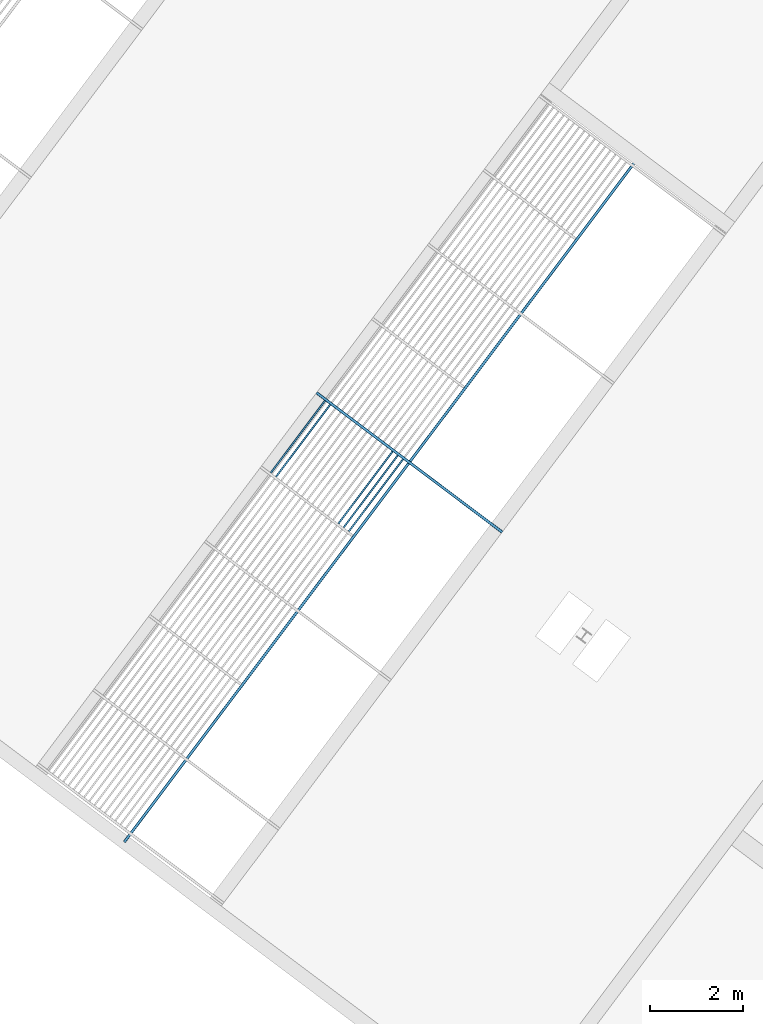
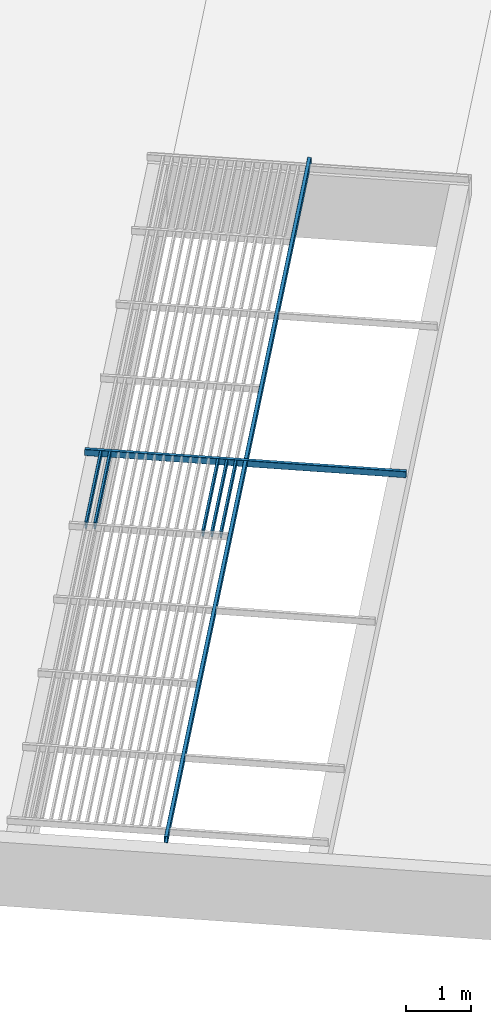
# One storey, part 26 of 95: 7 beams.
"""IFC2X3 building model written with IfcOpenShell, lengths in metres."""

import ifcopenshell
import ifcopenshell.guid

model = None  # the IFC model being written
_history = None  # IfcOwnerHistory: only IFC2X3 demands one
_inside = {}  # id of a spatial element -> (the spatial element, [elements in it])
_under = {}  # id of a project, library or spatial element -> (it, [spatial elements below it])
_declared = {}  # id of a project -> (the project, [libraries it declares])
_typed = {}  # id of a type object -> (the type object, [elements of that type])
_made_of = {}  # id of a material, layer set ... -> (it, [elements and type objects made of it])


def new_model(schema):
    """Start an empty IFC model of exactly this schema.

    Asked for "IFC4X3", IfcOpenShell would pick the latest addendum, in which some entities
    have other attributes; the version numbers below select the first issue.
    IFC2X3 requires an IfcOwnerHistory on every rooted entity: one is made here for all.
    """
    global model, _history
    if schema == "IFC4X3":
        model = ifcopenshell.file(schema_version=(4, 3, 0, 0))
    else:
        model = ifcopenshell.file(schema=schema)
    _inside.clear()
    _under.clear()
    _declared.clear()
    _typed.clear()
    _made_of.clear()
    _history = None
    if model.schema == "IFC2X3":
        org = make("IfcOrganization", Name="unknown")
        user = make(
            "IfcPersonAndOrganization",
            ThePerson=make("IfcPerson", FamilyName="unknown"),
            TheOrganization=org,
        )
        app = make(
            "IfcApplication",
            ApplicationDeveloper=org,
            Version="unknown",
            ApplicationFullName="unknown",
            ApplicationIdentifier="unknown",
        )
        _history = make(
            "IfcOwnerHistory",
            OwningUser=user,
            OwningApplication=app,
            ChangeAction="ADDED",
            CreationDate=0,
        )
    return model


def make(cls, **values):
    """One entity of the class cls with the attributes given. An attribute that is None is left unset."""
    return model.create_entity(
        cls, **{name: value for name, value in values.items() if value is not None}
    )


def entity(cls, *values):
    """Any entity or typed value of the class cls, its attributes in the order of the schema. None: left unset."""
    e = model.create_entity(cls)
    for i, value in enumerate(values):
        if value is not None:
            e[i] = value
    return e


def rooted(cls, **values):
    """An entity with a GlobalId (a new one), such as an element, a storey or a relation."""
    return make(cls, GlobalId=ifcopenshell.guid.new(), OwnerHistory=_history, **values)


def si_unit(unit_type, name, prefix=None):
    """IfcSIUnit, for example si_unit("LENGTHUNIT", "METRE", prefix="MILLI")."""
    return make("IfcSIUnit", UnitType=unit_type, Prefix=prefix, Name=name)


def converted_unit(unit_type, name, factor, base, dimensions=None, offset=None):
    """IfcConversionBasedUnit, such as the inch: factor (a typed value) times the base unit."""
    return make(
        "IfcConversionBasedUnit"
        if offset is None
        else "IfcConversionBasedUnitWithOffset",
        ConversionOffset=offset,
        Dimensions=None
        if dimensions is None
        else entity("IfcDimensionalExponents", *dimensions),
        UnitType=unit_type,
        Name=name,
        ConversionFactor=make(
            "IfcMeasureWithUnit", ValueComponent=factor, UnitComponent=base
        ),
    )


def derived_unit(unit_type, elements):
    """IfcDerivedUnit: a product of units, each with its exponent."""
    return make(
        "IfcDerivedUnit",
        Elements=[
            make("IfcDerivedUnitElement", Unit=unit, Exponent=power)
            for unit, power in elements
        ],
        UnitType=unit_type,
    )


def assignment(units):
    """IfcUnitAssignment: the units of a project."""
    return None if units is None else make("IfcUnitAssignment", Units=units)


def point(xyz):
    """IfcCartesianPoint."""
    return None if xyz is None else make("IfcCartesianPoint", Coordinates=xyz)


def direction(xyz):
    """IfcDirection."""
    return None if xyz is None else make("IfcDirection", DirectionRatios=xyz)


def frame(location, z_axis=None, x_axis=None):
    """IfcAxis2Placement3D, a coordinate frame: its origin and axes. An axis left out is left unset."""
    return make(
        "IfcAxis2Placement3D",
        Location=point(location),
        Axis=direction(z_axis),
        RefDirection=direction(x_axis),
    )


def frame_2d(location, x_axis=None):
    """IfcAxis2Placement2D, a coordinate frame in the plane: its origin and x axis."""
    return make(
        "IfcAxis2Placement2D", Location=point(location), RefDirection=direction(x_axis)
    )


def origin():
    """The frame at (0, 0, 0) with its axes left unset."""
    return frame((0.0, 0.0, 0.0))


def place(relative_to, where):
    """IfcLocalPlacement: puts the frame where relative to a parent placement (None: the world)."""
    return make(
        "IfcLocalPlacement", PlacementRelTo=relative_to, RelativePlacement=where
    )


def context(
    kind, dimensions, precision=None, world=None, true_north=None, identifier=None
):
    """IfcGeometricRepresentationContext, for example the 3D "Model" context."""
    return make(
        "IfcGeometricRepresentationContext",
        ContextIdentifier=identifier,
        ContextType=kind,
        CoordinateSpaceDimension=dimensions,
        Precision=precision,
        WorldCoordinateSystem=world,
        TrueNorth=true_north,
    )


def subcontext(parent, identifier, kind, view, scale=None):
    """IfcGeometricRepresentationSubContext, for example "Body" below "Model"."""
    return make(
        "IfcGeometricRepresentationSubContext",
        ContextIdentifier=identifier,
        ContextType=kind,
        ParentContext=parent,
        TargetScale=scale,
        TargetView=view,
    )


def project(units=None, contexts=None):
    """IfcProject with its units and contexts."""
    return rooted(
        "IfcProject",
        Name="project",
        RepresentationContexts=contexts,
        UnitsInContext=assignment(units),
    )


def spatial(cls, under=None, at=None, **own):
    """A site, building, storey or space (cls), placed at a placement, below another one or the project."""
    s = rooted(cls, ObjectPlacement=at, **own)
    if under is not None:
        _under.setdefault(under.id(), (under, []))[1].append(s)
    return s


def polyline(points):
    """IfcPolyline through the points."""
    return make("IfcPolyline", Points=[point(p) for p in points])


def circle_curve(where, radius):
    """IfcCircle in the frame where."""
    return make("IfcCircle", Position=where, Radius=radius)


def parameter(value):
    """IfcParameterValue: where a trimmed curve begins or ends, as a parameter of its basis curve."""
    return model.create_entity("IfcParameterValue", value)


def trimmed(basis, trim1, trim2, sense, master):
    """IfcTrimmedCurve: the piece of a basis curve between two trims."""
    return make(
        "IfcTrimmedCurve",
        BasisCurve=basis,
        Trim1=trim1,
        Trim2=trim2,
        SenseAgreement=sense,
        MasterRepresentation=master,
    )


def segment(curve, same_sense, transition):
    """IfcCompositeCurveSegment."""
    return make(
        "IfcCompositeCurveSegment",
        Transition=transition,
        SameSense=same_sense,
        ParentCurve=curve,
    )


def composite_curve(segments, self_intersect=None):
    """IfcCompositeCurve: segments joined end to end."""
    return make("IfcCompositeCurve", Segments=segments, SelfIntersect=self_intersect)


def outline(outer, holes=None, kind="AREA"):
    """IfcArbitraryClosedProfileDef: a profile drawn as a closed curve; with holes, ...WithVoids."""
    if holes is None:
        return make("IfcArbitraryClosedProfileDef", ProfileType=kind, OuterCurve=outer)
    return make(
        "IfcArbitraryProfileDefWithVoids",
        ProfileType=kind,
        OuterCurve=outer,
        InnerCurves=holes,
    )


def extrude(swept, where, along, depth):
    """IfcExtrudedAreaSolid: the profile swept, set in the frame where, extruded along a direction by depth."""
    return make(
        "IfcExtrudedAreaSolid",
        SweptArea=swept,
        Position=where,
        ExtrudedDirection=direction(along),
        Depth=depth,
    )


def shape(context_of_items, identifier, shape_type, items):
    """IfcShapeRepresentation: the items that make up one representation, for example the "Body"."""
    return make(
        "IfcShapeRepresentation",
        ContextOfItems=context_of_items,
        RepresentationIdentifier=identifier,
        RepresentationType=shape_type,
        Items=items,
    )


def material(Name=None, Category=None):
    """IfcMaterial."""
    return make("IfcMaterial", Name=Name, Category=Category)


def made_of(thing, what):
    """Note that an element or type object is made of a material, layer set ...; save() writes the relation."""
    if what is not None:
        _made_of.setdefault(what.id(), (what, []))[1].append(thing)
    return thing


def type_object(cls, material=None, **own):
    """A type object (cls), such as IfcWallType, which elements share."""
    return made_of(rooted(cls, **own), material)


def element(
    cls,
    number,
    at=None,
    inside=None,
    cuts=None,
    type_object=None,
    material=None,
    context=None,
    identifier="Body",
    shape_type=None,
    held_by="IfcProductDefinitionShape",
    body=None,
    shapes=None,
    **own,
):
    """One element of the class cls, such as IfcWall. Its Tag is "e" and its number.

    at: its placement. inside: the storey or other place that contains it. cuts: it is an
    opening in that element (IfcRelVoidsElement). A single representation is given by context,
    identifier, shape_type and body (its items); several are given by shapes. held_by: the class
    of the entity that holds the representations. save() writes the other relations.
    """
    e = rooted(cls, Tag="e%d" % number, ObjectPlacement=at, **own)
    if body is not None:
        shapes = [shape(context, identifier, shape_type, body)]
    if shapes is not None:
        e.Representation = make(held_by, Representations=shapes)
    if inside is not None:
        _inside.setdefault(inside.id(), (inside, []))[1].append(e)
    if cuts is not None:
        rooted(
            "IfcRelVoidsElement", RelatingBuildingElement=cuts, RelatedOpeningElement=e
        )
    if type_object is not None:
        _typed.setdefault(type_object.id(), (type_object, []))[1].append(e)
    return made_of(e, material)


def aggregate(whole, parts):
    """IfcRelAggregates: a whole, such as a stair, and the parts it consists of."""
    return rooted("IfcRelAggregates", RelatingObject=whole, RelatedObjects=parts)


def save(model, path):
    """Write the relations noted so far, then the file.

    IfcRelAggregates (storeys below a building ...), IfcRelContainedInSpatialStructure (elements
    in a storey), IfcRelDefinesByType, IfcRelAssociatesMaterial and IfcRelDeclares: one each for
    every whole, place, type object, material and project.
    """
    for whole, parts in _under.values():
        aggregate(whole, parts)
    for where, things in _inside.values():
        rooted(
            "IfcRelContainedInSpatialStructure",
            RelatedElements=things,
            RelatingStructure=where,
        )
    for kind, things in _typed.values():
        rooted("IfcRelDefinesByType", RelatedObjects=things, RelatingType=kind)
    for what, things in _made_of.values():
        rooted("IfcRelAssociatesMaterial", RelatedObjects=things, RelatingMaterial=what)
    for by, libraries in _declared.values():
        rooted("IfcRelDeclares", RelatingContext=by, RelatedDefinitions=libraries)
    model.write(path)


model = new_model("IFC2X3")

# Units and contexts
model_context = context("Model", 3, precision=1e-05, world=origin(), true_north=direction((6.123031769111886e-17, 1.0)))
body_context = subcontext(model_context, "Body", "Model", "MODEL_VIEW")
ifc_project = project(units=[si_unit("LENGTHUNIT", "METRE"), si_unit("AREAUNIT", "SQUARE_METRE"), si_unit("VOLUMEUNIT", "CUBIC_METRE"), converted_unit("PLANEANGLEUNIT", "DEGREE", entity("IfcRatioMeasure", 0.017453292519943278), si_unit("PLANEANGLEUNIT", "RADIAN"), dimensions=[0, 0, 0, 0, 0, 0, 0]), si_unit("MASSUNIT", "GRAM", prefix="KILO"), derived_unit("MASSDENSITYUNIT", [(si_unit("MASSUNIT", "GRAM", prefix="KILO"), 1), (si_unit("LENGTHUNIT", "METRE"), -3)]), derived_unit("IONCONCENTRATIONUNIT", [(si_unit("MASSUNIT", "GRAM", prefix="KILO"), 1), (si_unit("LENGTHUNIT", "METRE"), -3)]), derived_unit("MOMENTOFINERTIAUNIT", [(si_unit("LENGTHUNIT", "METRE"), 4)]), si_unit("TIMEUNIT", "SECOND"), si_unit("FREQUENCYUNIT", "HERTZ"), si_unit("THERMODYNAMICTEMPERATUREUNIT", "DEGREE_CELSIUS"), derived_unit("THERMALTRANSMITTANCEUNIT", [(si_unit("MASSUNIT", "GRAM", prefix="KILO"), 1), (si_unit("THERMODYNAMICTEMPERATUREUNIT", "KELVIN"), -1), (si_unit("TIMEUNIT", "SECOND"), -3)]), derived_unit("THERMALCONDUCTANCEUNIT", [(si_unit("MASSUNIT", "GRAM", prefix="KILO"), 1), (si_unit("THERMODYNAMICTEMPERATUREUNIT", "KELVIN"), -1), (si_unit("TIMEUNIT", "SECOND"), -3), (si_unit("LENGTHUNIT", "METRE"), 1)]), derived_unit("VOLUMETRICFLOWRATEUNIT", [(si_unit("LENGTHUNIT", "METRE"), 3), (si_unit("TIMEUNIT", "SECOND"), -1)]), derived_unit("MASSFLOWRATEUNIT", [(si_unit("MASSUNIT", "GRAM", prefix="KILO"), 1), (si_unit("TIMEUNIT", "SECOND"), -1)]), derived_unit("ROTATIONALFREQUENCYUNIT", [(si_unit("TIMEUNIT", "SECOND"), -1)]), si_unit("ELECTRICCURRENTUNIT", "AMPERE"), si_unit("ELECTRICVOLTAGEUNIT", "VOLT"), si_unit("POWERUNIT", "WATT"), si_unit("FORCEUNIT", "NEWTON", prefix="KILO"), si_unit("ILLUMINANCEUNIT", "LUX"), si_unit("LUMINOUSFLUXUNIT", "LUMEN"), si_unit("LUMINOUSINTENSITYUNIT", "CANDELA"), derived_unit("USERDEFINED", [(si_unit("MASSUNIT", "GRAM", prefix="KILO"), -1), (si_unit("LENGTHUNIT", "METRE"), -2), (si_unit("TIMEUNIT", "SECOND"), 3), (si_unit("LUMINOUSFLUXUNIT", "LUMEN"), 1)]), derived_unit("USERDEFINED", [(si_unit("MASSUNIT", "GRAM", prefix="KILO"), 1), (si_unit("TIMEUNIT", "SECOND"), -3), (si_unit("LENGTHUNIT", "METRE"), 3), (si_unit("ELECTRICCURRENTUNIT", "AMPERE"), -2)]), derived_unit("SOUNDPOWERUNIT", [(si_unit("MASSUNIT", "GRAM", prefix="KILO"), 1), (si_unit("TIMEUNIT", "SECOND"), -3), (si_unit("LENGTHUNIT", "METRE"), 2)]), derived_unit("SOUNDPRESSUREUNIT", [(si_unit("MASSUNIT", "GRAM", prefix="KILO"), 1), (si_unit("LENGTHUNIT", "METRE"), -1), (si_unit("TIMEUNIT", "SECOND"), -2)]), derived_unit("LINEARVELOCITYUNIT", [(si_unit("LENGTHUNIT", "METRE"), 1), (si_unit("TIMEUNIT", "SECOND"), -1)]), si_unit("PRESSUREUNIT", "PASCAL"), derived_unit("USERDEFINED", [(si_unit("MASSUNIT", "GRAM", prefix="KILO"), 1), (si_unit("LENGTHUNIT", "METRE"), -2), (si_unit("TIMEUNIT", "SECOND"), -2)]), derived_unit("LINEARFORCEUNIT", [(si_unit("MASSUNIT", "GRAM", prefix="KILO"), 1), (si_unit("TIMEUNIT", "SECOND"), -2)]), derived_unit("PLANARFORCEUNIT", [(si_unit("MASSUNIT", "GRAM", prefix="KILO"), 1), (si_unit("LENGTHUNIT", "METRE"), -1), (si_unit("TIMEUNIT", "SECOND"), -2)]), derived_unit("SPECIFICHEATCAPACITYUNIT", [(si_unit("THERMODYNAMICTEMPERATUREUNIT", "KELVIN"), -1), (si_unit("LENGTHUNIT", "METRE"), 2), (si_unit("TIMEUNIT", "SECOND"), -2)]), derived_unit("HEATINGVALUEUNIT", [(si_unit("LENGTHUNIT", "METRE"), 2), (si_unit("TIMEUNIT", "SECOND"), -2)]), derived_unit("VAPORPERMEABILITYUNIT", [(si_unit("LENGTHUNIT", "METRE"), -1), (si_unit("TIMEUNIT", "SECOND"), 1)]), derived_unit("DYNAMICVISCOSITYUNIT", [(si_unit("MASSUNIT", "GRAM", prefix="KILO"), 1), (si_unit("TIMEUNIT", "SECOND"), -1), (si_unit("LENGTHUNIT", "METRE"), -1)]), derived_unit("THERMALEXPANSIONCOEFFICIENTUNIT", [(si_unit("THERMODYNAMICTEMPERATUREUNIT", "KELVIN"), -1)]), derived_unit("MODULUSOFELASTICITYUNIT", [(si_unit("MASSUNIT", "GRAM", prefix="KILO"), 1), (si_unit("LENGTHUNIT", "METRE"), -1), (si_unit("TIMEUNIT", "SECOND"), -2)]), derived_unit("ISOTHERMALMOISTURECAPACITYUNIT", [(si_unit("LENGTHUNIT", "METRE"), 3), (si_unit("MASSUNIT", "GRAM", prefix="KILO"), -1)]), derived_unit("MOISTUREDIFFUSIVITYUNIT", [(si_unit("TIMEUNIT", "SECOND"), -1), (si_unit("LENGTHUNIT", "METRE"), 2)])], contexts=[model_context])

# Site, building, storey
site_placement = place(None, origin())
site = spatial("IfcSite", under=ifc_project, at=site_placement, Name="Default", CompositionType="ELEMENT")
building_placement = place(site_placement, frame((0.0, 0.0, 235.0), z_axis=(0.0, 0.0, 1.0), x_axis=(-0.7996477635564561, 0.6004693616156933, 0.0)))
building = spatial("IfcBuilding", under=site, at=building_placement, CompositionType="ELEMENT")
storey_placement = place(building_placement, frame((0.0, 0.0, 3.400000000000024)))
storey = spatial("IfcBuildingStorey", under=building, at=storey_placement, Name="PC- Coberta STR", CompositionType="ELEMENT", Elevation=3.400000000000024)

# Beams
ifc_material = material(Name="_Acer- STR")
beam_type_1 = type_object("IfcBeamType", Name="STR- V- Acer- RHS- Rectangular- T1:120x60RHS", PredefinedType="NOTDEFINED")
beam_1_placement = place(storey_placement, frame((26.113552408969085, -36.61519175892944, 0.4984047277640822), z_axis=(0.0, 0.0, 1.0), x_axis=(0.0, -1.0, 0.0)))
element("IfcBeam", 1, at=beam_1_placement, inside=storey, type_object=beam_type_1, material=ifc_material, Name="STR- V- Acer- RHS- Rectangular- T1:120x60RHS", ObjectType="STR- V- Acer- RHS- Rectangular- T1:120x60RHS", context=body_context, shape_type="SweptSolid", body=[
    extrude(outline(composite_curve([segment(trimmed(circle_curve(frame_2d((0.05200000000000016, -0.021999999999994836), x_axis=(1.0, 0.0)), 0.008), [parameter(270.00000000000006)], [parameter(359.99999999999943)], True, "PARAMETER"), True, "CONTINUOUS"), segment(polyline([(0.05999999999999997, -0.02199999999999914), (0.05999999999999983, 0.021999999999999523)]), True, "CONTINUOUS"), segment(trimmed(circle_curve(frame_2d((0.05200000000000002, 0.02200000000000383), x_axis=(0.0, 1.0)), 0.008), [parameter(269.9999999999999)], [parameter(0.0)], True, "PARAMETER"), True, "CONTINUOUS"), segment(polyline([(0.05199999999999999, 0.030000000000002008), (-0.052000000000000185, 0.030000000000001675)]), True, "CONTINUOUS"), segment(trimmed(circle_curve(frame_2d((-0.05200000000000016, 0.022000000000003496), x_axis=(-1.0, 0.0)), 0.008), [parameter(269.9999999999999)], [parameter(0.0)], True, "PARAMETER"), True, "CONTINUOUS"), segment(polyline([(-0.05999999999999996, 0.021999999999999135), (-0.059999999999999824, -0.021999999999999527)]), True, "CONTINUOUS"), segment(trimmed(circle_curve(frame_2d((-0.05200000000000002, -0.02199999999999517), x_axis=(0.0, -1.0)), 0.008), [parameter(269.9999999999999)], [parameter(0.0)], True, "PARAMETER"), True, "CONTINUOUS"), segment(polyline([(-0.05199999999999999, -0.02999999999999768), (0.052000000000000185, -0.029999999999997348)]), True, "CONTINUOUS")], self_intersect=False), holes=[composite_curve([segment(polyline([(0.056000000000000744, 0.02199999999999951), (0.05600000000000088, -0.021999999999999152)]), True, "CONTINUOUS"), segment(trimmed(circle_curve(frame_2d((0.0520000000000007, -0.021999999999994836), x_axis=(0.0, -1.0)), 0.004), [parameter(0.0)], [parameter(90.00000000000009)], True, "PARAMETER"), False, "CONTINUOUS"), segment(polyline([(0.05200000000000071, -0.025999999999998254), (-0.05199999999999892, -0.025999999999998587)]), True, "CONTINUOUS"), segment(trimmed(circle_curve(frame_2d((-0.051999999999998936, -0.02199999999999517), x_axis=(-1.0, 0.0)), 0.004), [parameter(5.088887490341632e-13)], [parameter(90.00000000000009)], True, "PARAMETER"), False, "CONTINUOUS"), segment(polyline([(-0.055999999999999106, -0.021999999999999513), (-0.055999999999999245, 0.02199999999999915)]), True, "CONTINUOUS"), segment(trimmed(circle_curve(frame_2d((-0.051999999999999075, 0.022000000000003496), x_axis=(0.0, 1.0)), 0.004), [parameter(0.0)], [parameter(90.00000000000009)], True, "PARAMETER"), False, "CONTINUOUS"), segment(polyline([(-0.05199999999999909, 0.025999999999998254), (0.052000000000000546, 0.025999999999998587)]), True, "CONTINUOUS"), segment(trimmed(circle_curve(frame_2d((0.05200000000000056, 0.02200000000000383), x_axis=(1.0, 0.0)), 0.004), [parameter(1.0177774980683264e-13)], [parameter(90.00000000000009)], True, "PARAMETER"), False, "CONTINUOUS")], self_intersect=False)]), frame((-18.42499999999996, 0.03159527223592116, 0.06159527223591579), z_axis=(1.0, 0.0, 0.0), x_axis=(0.0, 0.0, 1.0)), (0.0, 0.0, 1.0), 18.42499999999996),
])
beam_2_placement = place(storey_placement, frame((23.645147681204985, -28.44678703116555, 0.49840472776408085), z_axis=(0.0, 0.0, 1.0), x_axis=(-1.0, 0.0, 0.0)))
element("IfcBeam", 2, at=beam_2_placement, inside=storey, type_object=beam_type_1, material=ifc_material, Name="STR- V- Acer- RHS- Rectangular- T1:120x60RHS", ObjectType="STR- V- Acer- RHS- Rectangular- T1:120x60RHS", context=body_context, shape_type="SweptSolid", body=[
    extrude(outline(composite_curve([segment(trimmed(circle_curve(frame_2d((-0.021999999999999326, -0.05200000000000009), x_axis=(1.0, 0.0)), 0.008), [parameter(180.0000000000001)], [parameter(269.99999999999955)], True, "PARAMETER"), True, "CONTINUOUS"), segment(polyline([(-0.02200000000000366, -0.05999999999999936), (0.021999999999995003, -0.05999999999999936)]), True, "CONTINUOUS"), segment(trimmed(circle_curve(frame_2d((0.021999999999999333, -0.05200000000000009), x_axis=(1.0, 0.0)), 0.008), [parameter(269.99999999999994)], [parameter(5.088887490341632e-14)], True, "PARAMETER"), True, "CONTINUOUS"), segment(polyline([(0.029999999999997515, -0.05199999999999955), (0.029999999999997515, 0.05200000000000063)]), True, "CONTINUOUS"), segment(trimmed(circle_curve(frame_2d((0.021999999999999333, 0.05200000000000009), x_axis=(1.0, 0.0)), 0.008), [parameter(359.99999999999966)], [parameter(89.99999999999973)], True, "PARAMETER"), True, "CONTINUOUS"), segment(polyline([(0.021999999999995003, 0.060000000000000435), (-0.02200000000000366, 0.060000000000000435)]), True, "CONTINUOUS"), segment(trimmed(circle_curve(frame_2d((-0.021999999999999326, 0.05200000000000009), x_axis=(1.0, 0.0)), 0.008), [parameter(90.00000000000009)], [parameter(180.00000000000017)], True, "PARAMETER"), True, "CONTINUOUS"), segment(polyline([(-0.03000000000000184, 0.05200000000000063), (-0.03000000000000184, -0.05199999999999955)]), True, "CONTINUOUS")], self_intersect=False), holes=[composite_curve([segment(polyline([(0.021999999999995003, -0.05600000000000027), (-0.02200000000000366, -0.05600000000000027)]), True, "CONTINUOUS"), segment(trimmed(circle_curve(frame_2d((-0.021999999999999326, -0.05200000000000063), x_axis=(1.0, 0.0)), 0.004), [parameter(179.99999999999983)], [parameter(269.9999999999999)], True, "PARAMETER"), False, "CONTINUOUS"), segment(polyline([(-0.02600000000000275, -0.05200000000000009), (-0.02600000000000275, 0.05199999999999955)]), True, "CONTINUOUS"), segment(trimmed(circle_curve(frame_2d((-0.021999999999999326, 0.051999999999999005), x_axis=(1.0, 0.0)), 0.004), [parameter(90.00000000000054)], [parameter(180.00000000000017)], True, "PARAMETER"), False, "CONTINUOUS"), segment(polyline([(-0.02200000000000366, 0.05599999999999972), (0.021999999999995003, 0.05599999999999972)]), True, "CONTINUOUS"), segment(trimmed(circle_curve(frame_2d((0.021999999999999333, 0.051999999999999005), x_axis=(1.0, 0.0)), 0.004), [parameter(0.0)], [parameter(90.00000000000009)], True, "PARAMETER"), False, "CONTINUOUS"), segment(polyline([(0.02599999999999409, 0.05199999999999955), (0.02599999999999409, -0.05200000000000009)]), True, "CONTINUOUS"), segment(trimmed(circle_curve(frame_2d((0.021999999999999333, -0.05200000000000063), x_axis=(1.0, 0.0)), 0.004), [parameter(270.00000000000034)], [parameter(3.5622212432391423e-13)], True, "PARAMETER"), False, "CONTINUOUS")], self_intersect=False)]), frame((-5.0, -0.03159527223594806, 0.061595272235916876), z_axis=(1.0, 0.0, 0.0), x_axis=(0.0, -1.0, 0.0)), (0.0, 0.0, 1.0), 5.000000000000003),
])
beam_type_2 = type_object("IfcBeamType", Name="STR- V- Acer- RHS- Rectangular- T1:120x40RHS -", PredefinedType="NOTDEFINED")
beam_3_placement = place(storey_placement, frame((28.373552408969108, -28.385191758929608, 0.49840472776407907), z_axis=(0.0, 0.0, 1.0), x_axis=(0.0, -1.0, 0.0)))
element("IfcBeam", 3, at=beam_3_placement, inside=storey, type_object=beam_type_2, material=ifc_material, Name="STR- V- Acer- RHS- Rectangular- T1:120x40RHS -", ObjectType="STR- V- Acer- RHS- Rectangular- T1:120x40RHS -", context=body_context, shape_type="SweptSolid", body=[
    extrude(outline(composite_curve([segment(trimmed(circle_curve(frame_2d((-0.013999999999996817, -0.05400000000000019), x_axis=(1.0, 0.0)), 0.006), [parameter(180.0000000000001)], [parameter(269.99999999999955)], True, "PARAMETER"), True, "CONTINUOUS"), segment(polyline([(-0.014000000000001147, -0.06000000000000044), (0.01400000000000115, -0.06000000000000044)]), True, "CONTINUOUS"), segment(trimmed(circle_curve(frame_2d((0.01400000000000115, -0.05400000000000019), x_axis=(1.0, 0.0)), 0.006), [parameter(269.99999999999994)], [parameter(1.0177774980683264e-13)], True, "PARAMETER"), True, "CONTINUOUS"), segment(polyline([(0.019999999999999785, -0.05400000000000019), (0.019999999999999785, 0.05399999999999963)]), True, "CONTINUOUS"), segment(trimmed(circle_curve(frame_2d((0.01400000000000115, 0.05399999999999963), x_axis=(1.0, 0.0)), 0.006), [parameter(359.9999999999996)], [parameter(89.99999999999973)], True, "PARAMETER"), True, "CONTINUOUS"), segment(polyline([(0.01400000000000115, 0.05999999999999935), (-0.014000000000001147, 0.05999999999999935)]), True, "CONTINUOUS"), segment(trimmed(circle_curve(frame_2d((-0.013999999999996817, 0.05399999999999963), x_axis=(1.0, 0.0)), 0.006), [parameter(90.00000000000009)], [parameter(180.00000000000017)], True, "PARAMETER"), True, "CONTINUOUS"), segment(polyline([(-0.019999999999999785, 0.05399999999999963), (-0.019999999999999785, -0.05400000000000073)]), True, "CONTINUOUS")], self_intersect=False), holes=[composite_curve([segment(polyline([(0.01400000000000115, -0.05700000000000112), (-0.014000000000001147, -0.05700000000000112)]), True, "CONTINUOUS"), segment(trimmed(circle_curve(frame_2d((-0.013999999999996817, -0.05400000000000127), x_axis=(1.0, 0.0)), 0.003), [parameter(179.99999999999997)], [parameter(269.9999999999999)], True, "PARAMETER"), False, "CONTINUOUS"), segment(polyline([(-0.01700000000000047, -0.05400000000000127), (-0.01700000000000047, 0.05399999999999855)]), True, "CONTINUOUS"), segment(trimmed(circle_curve(frame_2d((-0.013999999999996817, 0.05399999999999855), x_axis=(1.0, 0.0)), 0.003), [parameter(90.00000000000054)], [parameter(180.0000000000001)], True, "PARAMETER"), False, "CONTINUOUS"), segment(polyline([(-0.014000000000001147, 0.05699999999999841), (0.01400000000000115, 0.05699999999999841)]), True, "CONTINUOUS"), segment(trimmed(circle_curve(frame_2d((0.01400000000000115, 0.05399999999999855), x_axis=(1.0, 0.0)), 0.003), [parameter(0.0)], [parameter(90.00000000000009)], True, "PARAMETER"), False, "CONTINUOUS"), segment(polyline([(0.017000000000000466, 0.05399999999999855), (0.017000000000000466, -0.05400000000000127)]), True, "CONTINUOUS"), segment(trimmed(circle_curve(frame_2d((0.01400000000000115, -0.05400000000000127), x_axis=(1.0, 0.0)), 0.003), [parameter(270.00000000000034)], [parameter(3.053332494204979e-13)], True, "PARAMETER"), False, "CONTINUOUS")], self_intersect=False)]), frame((-1.9399999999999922, 0.021595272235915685, 0.06159527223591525), z_axis=(1.0, 0.0, 0.0), x_axis=(0.0, -1.0, 0.0)), (0.0, 0.0, 1.0), 1.9399999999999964),
])
beam_4_placement = place(storey_placement, frame((28.233552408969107, -28.385191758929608, 0.49840472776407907), z_axis=(0.0, 0.0, 1.0), x_axis=(0.0, -1.0, 0.0)))
element("IfcBeam", 4, at=beam_4_placement, inside=storey, type_object=beam_type_2, material=ifc_material, Name="STR- V- Acer- RHS- Rectangular- T1:120x40RHS -", ObjectType="STR- V- Acer- RHS- Rectangular- T1:120x40RHS -", context=body_context, shape_type="SweptSolid", body=[
    extrude(outline(composite_curve([segment(trimmed(circle_curve(frame_2d((-0.013999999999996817, -0.05400000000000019), x_axis=(1.0, 0.0)), 0.006), [parameter(180.0000000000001)], [parameter(269.99999999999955)], True, "PARAMETER"), True, "CONTINUOUS"), segment(polyline([(-0.014000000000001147, -0.06000000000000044), (0.01400000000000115, -0.06000000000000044)]), True, "CONTINUOUS"), segment(trimmed(circle_curve(frame_2d((0.01400000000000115, -0.05400000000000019), x_axis=(1.0, 0.0)), 0.006), [parameter(269.99999999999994)], [parameter(1.0177774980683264e-13)], True, "PARAMETER"), True, "CONTINUOUS"), segment(polyline([(0.019999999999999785, -0.05400000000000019), (0.019999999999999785, 0.05399999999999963)]), True, "CONTINUOUS"), segment(trimmed(circle_curve(frame_2d((0.01400000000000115, 0.05399999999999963), x_axis=(1.0, 0.0)), 0.006), [parameter(359.9999999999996)], [parameter(89.99999999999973)], True, "PARAMETER"), True, "CONTINUOUS"), segment(polyline([(0.01400000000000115, 0.05999999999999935), (-0.014000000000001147, 0.05999999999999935)]), True, "CONTINUOUS"), segment(trimmed(circle_curve(frame_2d((-0.013999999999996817, 0.05399999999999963), x_axis=(1.0, 0.0)), 0.006), [parameter(90.00000000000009)], [parameter(180.00000000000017)], True, "PARAMETER"), True, "CONTINUOUS"), segment(polyline([(-0.019999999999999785, 0.05399999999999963), (-0.019999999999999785, -0.05400000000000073)]), True, "CONTINUOUS")], self_intersect=False), holes=[composite_curve([segment(polyline([(0.01400000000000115, -0.05700000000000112), (-0.014000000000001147, -0.05700000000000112)]), True, "CONTINUOUS"), segment(trimmed(circle_curve(frame_2d((-0.013999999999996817, -0.05400000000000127), x_axis=(1.0, 0.0)), 0.003), [parameter(179.99999999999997)], [parameter(269.9999999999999)], True, "PARAMETER"), False, "CONTINUOUS"), segment(polyline([(-0.01700000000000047, -0.05400000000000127), (-0.01700000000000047, 0.05399999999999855)]), True, "CONTINUOUS"), segment(trimmed(circle_curve(frame_2d((-0.013999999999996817, 0.05399999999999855), x_axis=(1.0, 0.0)), 0.003), [parameter(90.00000000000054)], [parameter(180.0000000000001)], True, "PARAMETER"), False, "CONTINUOUS"), segment(polyline([(-0.014000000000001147, 0.05699999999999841), (0.01400000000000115, 0.05699999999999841)]), True, "CONTINUOUS"), segment(trimmed(circle_curve(frame_2d((0.01400000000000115, 0.05399999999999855), x_axis=(1.0, 0.0)), 0.003), [parameter(0.0)], [parameter(90.00000000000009)], True, "PARAMETER"), False, "CONTINUOUS"), segment(polyline([(0.017000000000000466, 0.05399999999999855), (0.017000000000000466, -0.05400000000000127)]), True, "CONTINUOUS"), segment(trimmed(circle_curve(frame_2d((0.01400000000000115, -0.05400000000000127), x_axis=(1.0, 0.0)), 0.003), [parameter(270.00000000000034)], [parameter(3.053332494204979e-13)], True, "PARAMETER"), False, "CONTINUOUS")], self_intersect=False)]), frame((-1.9399999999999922, 0.021595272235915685, 0.06159527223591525), z_axis=(1.0, 0.0, 0.0), x_axis=(0.0, -1.0, 0.0)), (0.0, 0.0, 1.0), 1.9399999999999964),
])
beam_5_placement = place(storey_placement, frame((26.553552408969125, -28.385191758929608, 0.49840472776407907), z_axis=(0.0, 0.0, 1.0), x_axis=(0.0, -1.0, 0.0)))
element("IfcBeam", 5, at=beam_5_placement, inside=storey, type_object=beam_type_2, material=ifc_material, Name="STR- V- Acer- RHS- Rectangular- T1:120x40RHS -", ObjectType="STR- V- Acer- RHS- Rectangular- T1:120x40RHS -", context=body_context, shape_type="SweptSolid", body=[
    extrude(outline(composite_curve([segment(trimmed(circle_curve(frame_2d((-0.013999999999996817, -0.05400000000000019), x_axis=(1.0, 0.0)), 0.006), [parameter(180.0000000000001)], [parameter(269.99999999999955)], True, "PARAMETER"), True, "CONTINUOUS"), segment(polyline([(-0.014000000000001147, -0.06000000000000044), (0.01400000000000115, -0.06000000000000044)]), True, "CONTINUOUS"), segment(trimmed(circle_curve(frame_2d((0.01400000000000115, -0.05400000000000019), x_axis=(1.0, 0.0)), 0.006), [parameter(269.99999999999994)], [parameter(1.0177774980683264e-13)], True, "PARAMETER"), True, "CONTINUOUS"), segment(polyline([(0.019999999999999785, -0.05400000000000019), (0.019999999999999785, 0.05399999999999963)]), True, "CONTINUOUS"), segment(trimmed(circle_curve(frame_2d((0.01400000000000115, 0.05399999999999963), x_axis=(1.0, 0.0)), 0.006), [parameter(359.9999999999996)], [parameter(89.99999999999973)], True, "PARAMETER"), True, "CONTINUOUS"), segment(polyline([(0.01400000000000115, 0.05999999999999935), (-0.014000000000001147, 0.05999999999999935)]), True, "CONTINUOUS"), segment(trimmed(circle_curve(frame_2d((-0.013999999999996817, 0.05399999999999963), x_axis=(1.0, 0.0)), 0.006), [parameter(90.00000000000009)], [parameter(180.00000000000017)], True, "PARAMETER"), True, "CONTINUOUS"), segment(polyline([(-0.019999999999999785, 0.05399999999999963), (-0.019999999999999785, -0.05400000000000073)]), True, "CONTINUOUS")], self_intersect=False), holes=[composite_curve([segment(polyline([(0.01400000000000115, -0.05700000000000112), (-0.014000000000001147, -0.05700000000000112)]), True, "CONTINUOUS"), segment(trimmed(circle_curve(frame_2d((-0.013999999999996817, -0.05400000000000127), x_axis=(1.0, 0.0)), 0.003), [parameter(179.99999999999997)], [parameter(269.9999999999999)], True, "PARAMETER"), False, "CONTINUOUS"), segment(polyline([(-0.01700000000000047, -0.05400000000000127), (-0.01700000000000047, 0.05399999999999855)]), True, "CONTINUOUS"), segment(trimmed(circle_curve(frame_2d((-0.013999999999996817, 0.05399999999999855), x_axis=(1.0, 0.0)), 0.003), [parameter(90.00000000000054)], [parameter(180.0000000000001)], True, "PARAMETER"), False, "CONTINUOUS"), segment(polyline([(-0.014000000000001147, 0.05699999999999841), (0.01400000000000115, 0.05699999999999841)]), True, "CONTINUOUS"), segment(trimmed(circle_curve(frame_2d((0.01400000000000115, 0.05399999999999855), x_axis=(1.0, 0.0)), 0.003), [parameter(0.0)], [parameter(90.00000000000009)], True, "PARAMETER"), False, "CONTINUOUS"), segment(polyline([(0.017000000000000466, 0.05399999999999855), (0.017000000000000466, -0.05400000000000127)]), True, "CONTINUOUS"), segment(trimmed(circle_curve(frame_2d((0.01400000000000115, -0.05400000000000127), x_axis=(1.0, 0.0)), 0.003), [parameter(270.00000000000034)], [parameter(3.053332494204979e-13)], True, "PARAMETER"), False, "CONTINUOUS")], self_intersect=False)]), frame((-1.9399999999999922, 0.021595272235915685, 0.06159527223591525), z_axis=(1.0, 0.0, 0.0), x_axis=(0.0, -1.0, 0.0)), (0.0, 0.0, 1.0), 1.9399999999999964),
])
beam_6_placement = place(storey_placement, frame((26.413552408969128, -28.385191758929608, 0.49840472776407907), z_axis=(0.0, 0.0, 1.0), x_axis=(0.0, -1.0, 0.0)))
element("IfcBeam", 6, at=beam_6_placement, inside=storey, type_object=beam_type_2, material=ifc_material, Name="STR- V- Acer- RHS- Rectangular- T1:120x40RHS -", ObjectType="STR- V- Acer- RHS- Rectangular- T1:120x40RHS -", context=body_context, shape_type="SweptSolid", body=[
    extrude(outline(composite_curve([segment(trimmed(circle_curve(frame_2d((-0.013999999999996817, -0.05400000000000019), x_axis=(1.0, 0.0)), 0.006), [parameter(180.0000000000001)], [parameter(269.99999999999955)], True, "PARAMETER"), True, "CONTINUOUS"), segment(polyline([(-0.014000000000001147, -0.06000000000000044), (0.01400000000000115, -0.06000000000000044)]), True, "CONTINUOUS"), segment(trimmed(circle_curve(frame_2d((0.01400000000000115, -0.05400000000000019), x_axis=(1.0, 0.0)), 0.006), [parameter(269.99999999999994)], [parameter(1.0177774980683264e-13)], True, "PARAMETER"), True, "CONTINUOUS"), segment(polyline([(0.019999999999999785, -0.05400000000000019), (0.019999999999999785, 0.05399999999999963)]), True, "CONTINUOUS"), segment(trimmed(circle_curve(frame_2d((0.01400000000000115, 0.05399999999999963), x_axis=(1.0, 0.0)), 0.006), [parameter(359.9999999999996)], [parameter(89.99999999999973)], True, "PARAMETER"), True, "CONTINUOUS"), segment(polyline([(0.01400000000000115, 0.05999999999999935), (-0.014000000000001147, 0.05999999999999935)]), True, "CONTINUOUS"), segment(trimmed(circle_curve(frame_2d((-0.013999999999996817, 0.05399999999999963), x_axis=(1.0, 0.0)), 0.006), [parameter(90.00000000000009)], [parameter(180.00000000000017)], True, "PARAMETER"), True, "CONTINUOUS"), segment(polyline([(-0.019999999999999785, 0.05399999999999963), (-0.019999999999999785, -0.05400000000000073)]), True, "CONTINUOUS")], self_intersect=False), holes=[composite_curve([segment(polyline([(0.01400000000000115, -0.05700000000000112), (-0.014000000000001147, -0.05700000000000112)]), True, "CONTINUOUS"), segment(trimmed(circle_curve(frame_2d((-0.013999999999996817, -0.05400000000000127), x_axis=(1.0, 0.0)), 0.003), [parameter(179.99999999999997)], [parameter(269.9999999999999)], True, "PARAMETER"), False, "CONTINUOUS"), segment(polyline([(-0.01700000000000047, -0.05400000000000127), (-0.01700000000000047, 0.05399999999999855)]), True, "CONTINUOUS"), segment(trimmed(circle_curve(frame_2d((-0.013999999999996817, 0.05399999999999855), x_axis=(1.0, 0.0)), 0.003), [parameter(90.00000000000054)], [parameter(180.0000000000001)], True, "PARAMETER"), False, "CONTINUOUS"), segment(polyline([(-0.014000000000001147, 0.05699999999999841), (0.01400000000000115, 0.05699999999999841)]), True, "CONTINUOUS"), segment(trimmed(circle_curve(frame_2d((0.01400000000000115, 0.05399999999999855), x_axis=(1.0, 0.0)), 0.003), [parameter(0.0)], [parameter(90.00000000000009)], True, "PARAMETER"), False, "CONTINUOUS"), segment(polyline([(0.017000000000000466, 0.05399999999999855), (0.017000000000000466, -0.05400000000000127)]), True, "CONTINUOUS"), segment(trimmed(circle_curve(frame_2d((0.01400000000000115, -0.05400000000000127), x_axis=(1.0, 0.0)), 0.003), [parameter(270.00000000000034)], [parameter(3.053332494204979e-13)], True, "PARAMETER"), False, "CONTINUOUS")], self_intersect=False)]), frame((-1.9399999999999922, 0.021595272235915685, 0.06159527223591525), z_axis=(1.0, 0.0, 0.0), x_axis=(0.0, -1.0, 0.0)), (0.0, 0.0, 1.0), 1.9399999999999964),
])
beam_7_placement = place(storey_placement, frame((26.27355240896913, -28.385191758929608, 0.49840472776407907), z_axis=(0.0, 0.0, 1.0), x_axis=(0.0, -1.0, 0.0)))
element("IfcBeam", 7, at=beam_7_placement, inside=storey, type_object=beam_type_2, material=ifc_material, Name="STR- V- Acer- RHS- Rectangular- T1:120x40RHS -", ObjectType="STR- V- Acer- RHS- Rectangular- T1:120x40RHS -", context=body_context, shape_type="SweptSolid", body=[
    extrude(outline(composite_curve([segment(trimmed(circle_curve(frame_2d((-0.013999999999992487, -0.05400000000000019), x_axis=(1.0, 0.0)), 0.006), [parameter(180.0000000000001)], [parameter(269.99999999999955)], True, "PARAMETER"), True, "CONTINUOUS"), segment(polyline([(-0.013999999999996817, -0.06000000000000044), (0.01400000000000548, -0.06000000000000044)]), True, "CONTINUOUS"), segment(trimmed(circle_curve(frame_2d((0.01400000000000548, -0.05400000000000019), x_axis=(1.0, 0.0)), 0.006), [parameter(269.99999999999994)], [parameter(1.0177774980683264e-13)], True, "PARAMETER"), True, "CONTINUOUS"), segment(polyline([(0.020000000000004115, -0.05400000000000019), (0.020000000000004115, 0.05399999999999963)]), True, "CONTINUOUS"), segment(trimmed(circle_curve(frame_2d((0.01400000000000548, 0.05399999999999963), x_axis=(1.0, 0.0)), 0.006), [parameter(359.9999999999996)], [parameter(89.99999999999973)], True, "PARAMETER"), True, "CONTINUOUS"), segment(polyline([(0.01400000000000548, 0.05999999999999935), (-0.013999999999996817, 0.05999999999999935)]), True, "CONTINUOUS"), segment(trimmed(circle_curve(frame_2d((-0.013999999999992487, 0.05399999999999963), x_axis=(1.0, 0.0)), 0.006), [parameter(90.00000000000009)], [parameter(180.00000000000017)], True, "PARAMETER"), True, "CONTINUOUS"), segment(polyline([(-0.019999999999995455, 0.05399999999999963), (-0.019999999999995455, -0.05400000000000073)]), True, "CONTINUOUS")], self_intersect=False), holes=[composite_curve([segment(polyline([(0.01400000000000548, -0.05700000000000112), (-0.013999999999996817, -0.05700000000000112)]), True, "CONTINUOUS"), segment(trimmed(circle_curve(frame_2d((-0.013999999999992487, -0.05400000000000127), x_axis=(1.0, 0.0)), 0.003), [parameter(179.99999999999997)], [parameter(269.9999999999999)], True, "PARAMETER"), False, "CONTINUOUS"), segment(polyline([(-0.01699999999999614, -0.05400000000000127), (-0.01699999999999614, 0.05399999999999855)]), True, "CONTINUOUS"), segment(trimmed(circle_curve(frame_2d((-0.013999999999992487, 0.05399999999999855), x_axis=(1.0, 0.0)), 0.003), [parameter(90.00000000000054)], [parameter(180.0000000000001)], True, "PARAMETER"), False, "CONTINUOUS"), segment(polyline([(-0.013999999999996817, 0.05699999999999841), (0.01400000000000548, 0.05699999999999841)]), True, "CONTINUOUS"), segment(trimmed(circle_curve(frame_2d((0.01400000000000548, 0.05399999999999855), x_axis=(1.0, 0.0)), 0.003), [parameter(0.0)], [parameter(90.00000000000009)], True, "PARAMETER"), False, "CONTINUOUS"), segment(polyline([(0.017000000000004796, 0.05399999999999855), (0.017000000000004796, -0.05400000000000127)]), True, "CONTINUOUS"), segment(trimmed(circle_curve(frame_2d((0.01400000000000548, -0.05400000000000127), x_axis=(1.0, 0.0)), 0.003), [parameter(270.00000000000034)], [parameter(3.053332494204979e-13)], True, "PARAMETER"), False, "CONTINUOUS")], self_intersect=False)]), frame((-1.9399999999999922, 0.021595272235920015, 0.06159527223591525), z_axis=(1.0, 0.0, 0.0), x_axis=(0.0, -1.0, 0.0)), (0.0, 0.0, 1.0), 1.9399999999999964),
])

save(model, "model.ifc")
